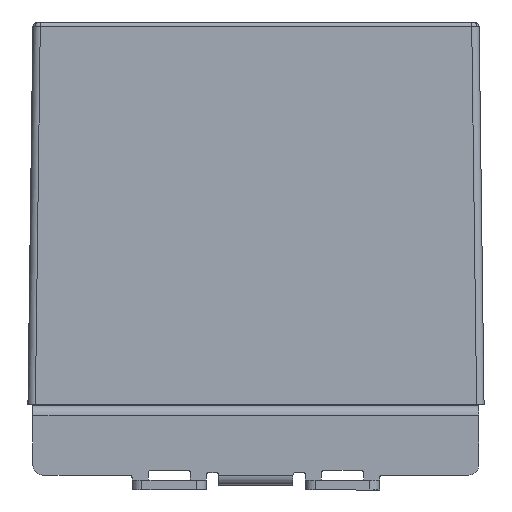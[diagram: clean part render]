
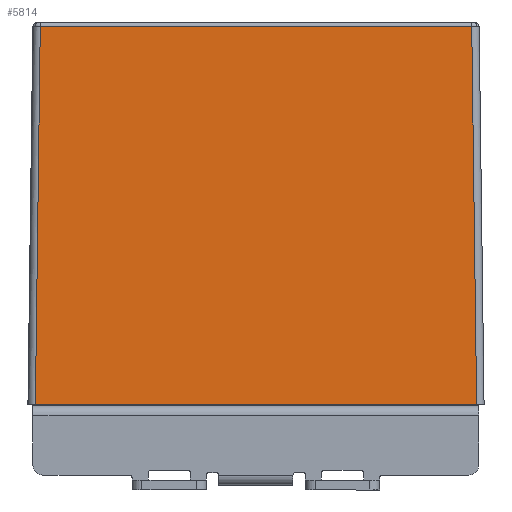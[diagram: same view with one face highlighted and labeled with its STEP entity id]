
A CAD part, front view. The second image highlights one B-rep face of the part: STEP entity #5814.
In plain terms, the highlighted planar face has unit normal (0, -1, 0.013) as drawn and (-1, 0.013, 0) by its records, which use the part's own axes.
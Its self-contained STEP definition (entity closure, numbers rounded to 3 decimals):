
#1009 = ORIENTED_EDGE ( 'NONE', *, *, #16662, .T. ) ;
#1237 = LINE ( 'NONE', #11329, #7171 ) ;
#1338 = LINE ( 'NONE', #17478, #6420 ) ;
#1386 = CARTESIAN_POINT ( 'NONE',  ( -59.05, 0., 46.05 ) ) ;
#1576 = PLANE ( 'NONE',  #10720 ) ;
#1894 = DIRECTION ( 'NONE',  ( 0., 0., 1. ) ) ;
#3126 = DIRECTION ( 'NONE',  ( 0.013, 1., -0.013 ) ) ;
#3870 = VERTEX_POINT ( 'NONE', #5407 ) ;
#4582 = DIRECTION ( 'NONE',  ( 0., 0., -1. ) ) ;
#5407 = CARTESIAN_POINT ( 'NONE',  ( -58.063, 76.213, -43.563 ) ) ;
#5814 = ADVANCED_FACE ( 'NONE', ( #19442 ), #1576, .T. ) ;
#6384 = ORIENTED_EDGE ( 'NONE', *, *, #17202, .T. ) ;
#6420 = VECTOR ( 'NONE', #14604, 1000. ) ;
#7171 = VECTOR ( 'NONE', #3126, 1000. ) ;
#7884 = DIRECTION ( 'NONE',  ( 0., 0., 1. ) ) ;
#9454 = VERTEX_POINT ( 'NONE', #19812 ) ;
#10021 = CARTESIAN_POINT ( 'NONE',  ( -59.05, 0., 44.55 ) ) ;
#10720 = AXIS2_PLACEMENT_3D ( 'NONE', #12951, #19658, #1894 ) ;
#10869 = VECTOR ( 'NONE', #4582, 1000. ) ;
#11329 = CARTESIAN_POINT ( 'NONE',  ( -59.033, 1.342, 44.533 ) ) ;
#11570 = VERTEX_POINT ( 'NONE', #10021 ) ;
#12951 = CARTESIAN_POINT ( 'NONE',  ( -59.04, 0.765, 0. ) ) ;
#14038 = EDGE_CURVE ( 'NONE', #18768, #11570, #19571, .T. ) ;
#14244 = CARTESIAN_POINT ( 'NONE',  ( -58.063, 76.213, 0. ) ) ;
#14317 = EDGE_LOOP ( 'NONE', ( #16072, #6384, #1009, #17123 ) ) ;
#14518 = VECTOR ( 'NONE', #7884, 1000. ) ;
#14604 = DIRECTION ( 'NONE',  ( -0.013, -1., -0.013 ) ) ;
#15888 = EDGE_CURVE ( 'NONE', #3870, #18768, #1338, .T. ) ;
#16072 = ORIENTED_EDGE ( 'NONE', *, *, #14038, .T. ) ;
#16662 = EDGE_CURVE ( 'NONE', #9454, #3870, #18825, .T. ) ;
#17123 = ORIENTED_EDGE ( 'NONE', *, *, #15888, .T. ) ;
#17202 = EDGE_CURVE ( 'NONE', #11570, #9454, #1237, .T. ) ;
#17478 = CARTESIAN_POINT ( 'NONE',  ( -59.033, 1.342, -44.533 ) ) ;
#18768 = VERTEX_POINT ( 'NONE', #19392 ) ;
#18825 = LINE ( 'NONE', #14244, #10869 ) ;
#19392 = CARTESIAN_POINT ( 'NONE',  ( -59.05, 0., -44.55 ) ) ;
#19442 = FACE_OUTER_BOUND ( 'NONE', #14317, .T. ) ;
#19571 = LINE ( 'NONE', #1386, #14518 ) ;
#19658 = DIRECTION ( 'NONE',  ( -1., 0.013, 0. ) ) ;
#19812 = CARTESIAN_POINT ( 'NONE',  ( -58.063, 76.213, 43.563 ) ) ;
